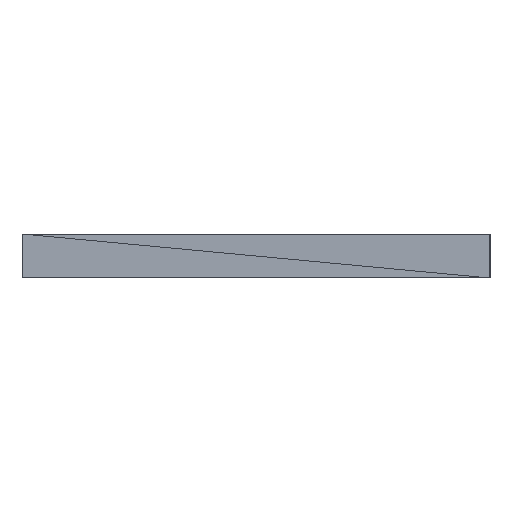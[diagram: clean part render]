
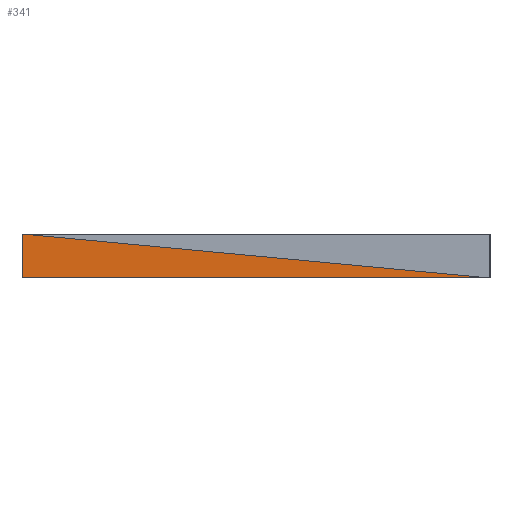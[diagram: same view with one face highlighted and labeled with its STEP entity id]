
A CAD part, left-side view. The second image highlights one B-rep face of the part: STEP entity #341.
In plain terms, the highlighted planar face has unit normal (-1, 0, 0).
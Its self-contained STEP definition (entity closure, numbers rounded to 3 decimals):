
#31=FACE_OUTER_BOUND('',#59,.T.);
#59=EDGE_LOOP('',(#261,#262,#263));
#72=LINE('',#501,#114);
#102=LINE('',#560,#144);
#103=LINE('',#561,#145);
#114=VECTOR('',#400,10.);
#144=VECTOR('',#462,10.);
#145=VECTOR('',#463,10.);
#155=VERTEX_POINT('',#497);
#157=VERTEX_POINT('',#500);
#169=VERTEX_POINT('',#543);
#172=EDGE_CURVE('',#155,#157,#72,.T.);
#202=EDGE_CURVE('',#155,#169,#102,.T.);
#203=EDGE_CURVE('',#157,#169,#103,.T.);
#261=ORIENTED_EDGE('',*,*,#202,.T.);
#262=ORIENTED_EDGE('',*,*,#203,.F.);
#263=ORIENTED_EDGE('',*,*,#172,.F.);
#313=PLANE('',#383);
#341=ADVANCED_FACE('',(#31),#313,.T.);
#383=AXIS2_PLACEMENT_3D('',#559,#460,#461);
#400=DIRECTION('',(0.,1.,0.));
#460=DIRECTION('center_axis',(-1.,0.,0.));
#461=DIRECTION('ref_axis',(0.,0.,1.));
#462=DIRECTION('',(0.,0.996,0.093));
#463=DIRECTION('',(0.,0.,1.));
#497=CARTESIAN_POINT('',(0.,0.,0.));
#500=CARTESIAN_POINT('',(0.,1065.2,0.));
#501=CARTESIAN_POINT('',(0.,0.,0.));
#543=CARTESIAN_POINT('',(0.,1065.2,100.));
#559=CARTESIAN_POINT('Origin',(0.,1065.2,0.));
#560=CARTESIAN_POINT('',(0.,0.,0.));
#561=CARTESIAN_POINT('',(0.,1065.2,0.));
